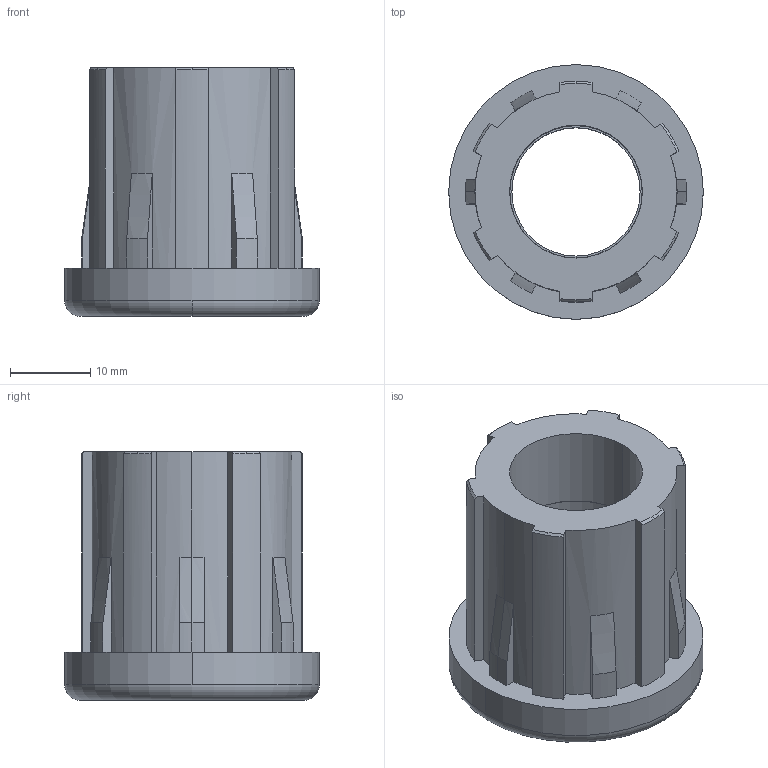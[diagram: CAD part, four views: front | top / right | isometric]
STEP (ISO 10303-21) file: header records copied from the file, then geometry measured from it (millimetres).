
FILE_DESCRIPTION (( 'STEP AP214' ), '1' );
FILE_NAME ('42006830216.STEP', '2020-02-25T17:49:24', ( '' ), ( '' ), 'SwSTEP 2.0', 'SolidWorks 2018', '' );
FILE_SCHEMA (( 'AUTOMOTIVE_DESIGN' ));
Length unit declared in the file: millimetre
Products named in the file (5): 42006830216; BC_M16.stp; 42006830216.stp; 68_7232.stp; Component1.stp
Assembly tree (4 placements, depth 4):
  42006830216
    42006830216.stp
      68_7232.stp
        Component1.stp
      BC_M16.stp
Bounding box: 31.75 x 31.75 x 31 mm (x, y, z)
Volume: 11427.7 mm3; surface area: 7603.2 mm2
Topology: 2 solids, 2 shells, 105 faces, 272 edges, 174 vertices
Faces by surface type: cylinder 38, plane 31, cone 28, torus 8
Entity records: 3432 total; most frequent: DIRECTION 628, CARTESIAN_POINT 596, ORIENTED_EDGE 544, EDGE_CURVE 272, AXIS2_PLACEMENT_3D 254, VERTEX_POINT 174, CIRCLE 140, VECTOR 120
